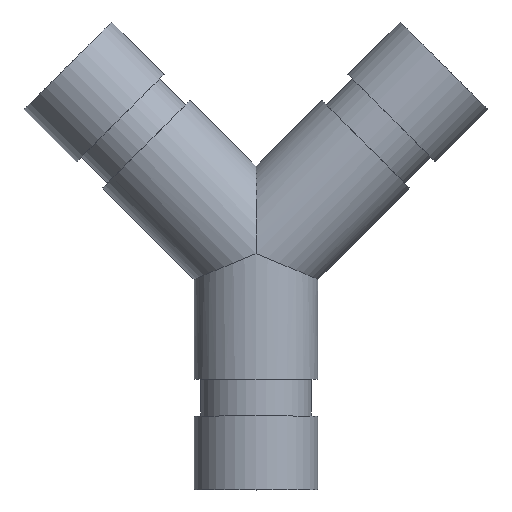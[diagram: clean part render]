
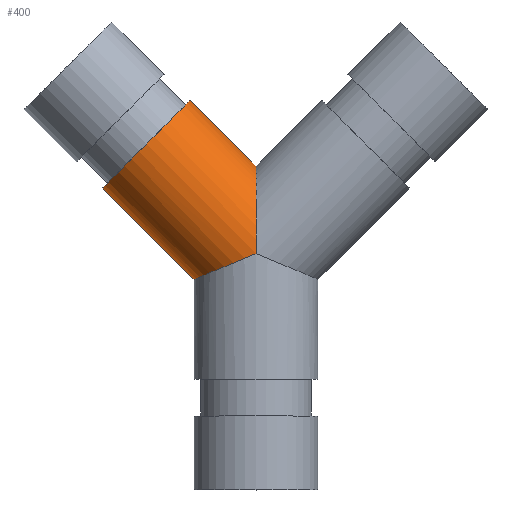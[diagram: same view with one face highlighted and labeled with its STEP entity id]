
A CAD part, top view. The second image highlights one B-rep face of the part: STEP entity #400.
In plain terms, the highlighted cylindrical face has radius 13.335 mm (diameter 26.67 mm), a full revolution.
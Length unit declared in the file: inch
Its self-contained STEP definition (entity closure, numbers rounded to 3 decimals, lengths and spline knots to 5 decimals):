
#76=FACE_OUTER_BOUND('',#103,.T.);
#103=EDGE_LOOP('',(#314,#315,#316,#317,#318,#319,#320,#321));
#118=ELLIPSE('',#470,0.74246,0.525);
#119=ELLIPSE('',#471,0.56826,0.525);
#120=ELLIPSE('',#472,0.56826,0.525);
#121=ELLIPSE('',#473,0.74246,0.525);
#131=LINE('',#735,#143);
#143=VECTOR('',#595,0.525);
#156=CIRCLE('',#446,0.525);
#157=CIRCLE('',#447,0.525);
#186=VERTEX_POINT('',#686);
#187=VERTEX_POINT('',#687);
#202=VERTEX_POINT('',#730);
#203=VERTEX_POINT('',#731);
#204=VERTEX_POINT('',#733);
#205=VERTEX_POINT('',#736);
#223=EDGE_CURVE('',#186,#187,#156,.T.);
#224=EDGE_CURVE('',#187,#186,#157,.T.);
#243=EDGE_CURVE('',#202,#203,#118,.T.);
#244=EDGE_CURVE('',#204,#202,#119,.T.);
#245=EDGE_CURVE('',#204,#187,#131,.T.);
#246=EDGE_CURVE('',#205,#204,#120,.T.);
#247=EDGE_CURVE('',#203,#205,#121,.T.);
#314=ORIENTED_EDGE('',*,*,#243,.F.);
#315=ORIENTED_EDGE('',*,*,#244,.F.);
#316=ORIENTED_EDGE('',*,*,#245,.T.);
#317=ORIENTED_EDGE('',*,*,#224,.T.);
#318=ORIENTED_EDGE('',*,*,#223,.T.);
#319=ORIENTED_EDGE('',*,*,#245,.F.);
#320=ORIENTED_EDGE('',*,*,#246,.F.);
#321=ORIENTED_EDGE('',*,*,#247,.F.);
#359=CYLINDRICAL_SURFACE('',#469,0.525);
#400=ADVANCED_FACE('',(#76),#359,.T.);
#446=AXIS2_PLACEMENT_3D('',#688,#539,#540);
#447=AXIS2_PLACEMENT_3D('',#689,#541,#542);
#469=AXIS2_PLACEMENT_3D('',#729,#589,#590);
#470=AXIS2_PLACEMENT_3D('',#732,#591,#592);
#471=AXIS2_PLACEMENT_3D('',#734,#593,#594);
#472=AXIS2_PLACEMENT_3D('',#737,#596,#597);
#473=AXIS2_PLACEMENT_3D('',#738,#598,#599);
#539=DIRECTION('center_axis',(0.707,-0.707,0.));
#540=DIRECTION('ref_axis',(0.707,0.707,0.));
#541=DIRECTION('center_axis',(0.707,-0.707,0.));
#542=DIRECTION('ref_axis',(0.707,0.707,0.));
#589=DIRECTION('center_axis',(0.707,-0.707,0.));
#590=DIRECTION('ref_axis',(0.707,0.707,0.));
#591=DIRECTION('center_axis',(1.,0.,0.));
#592=DIRECTION('ref_axis',(0.,1.,0.));
#593=DIRECTION('center_axis',(0.383,-0.924,0.));
#594=DIRECTION('ref_axis',(0.924,0.383,0.));
#595=DIRECTION('',(-0.707,0.707,0.));
#596=DIRECTION('center_axis',(0.383,-0.924,0.));
#597=DIRECTION('ref_axis',(0.924,0.383,0.));
#598=DIRECTION('center_axis',(1.,0.,0.));
#599=DIRECTION('ref_axis',(0.,1.,0.));
#686=CARTESIAN_POINT('',(-0.55649,1.29896,0.));
#687=CARTESIAN_POINT('',(-1.29896,0.55649,0.));
#688=CARTESIAN_POINT('Origin',(-0.92772,0.92772,0.));
#689=CARTESIAN_POINT('Origin',(-0.92772,0.92772,0.));
#729=CARTESIAN_POINT('Origin',(-1.59099,1.59099,0.));
#730=CARTESIAN_POINT('',(0.,0.,-0.525));
#731=CARTESIAN_POINT('',(0.,0.74246,0.));
#732=CARTESIAN_POINT('Origin',(0.,0.,
0.));
#733=CARTESIAN_POINT('',(-0.525,-0.21746,0.));
#734=CARTESIAN_POINT('Origin',(0.,0.,0.));
#735=CARTESIAN_POINT('',(-1.96222,1.21976,0.));
#736=CARTESIAN_POINT('',(0.,0.,0.525));
#737=CARTESIAN_POINT('Origin',(0.,0.,0.));
#738=CARTESIAN_POINT('Origin',(0.,0.,
0.));
